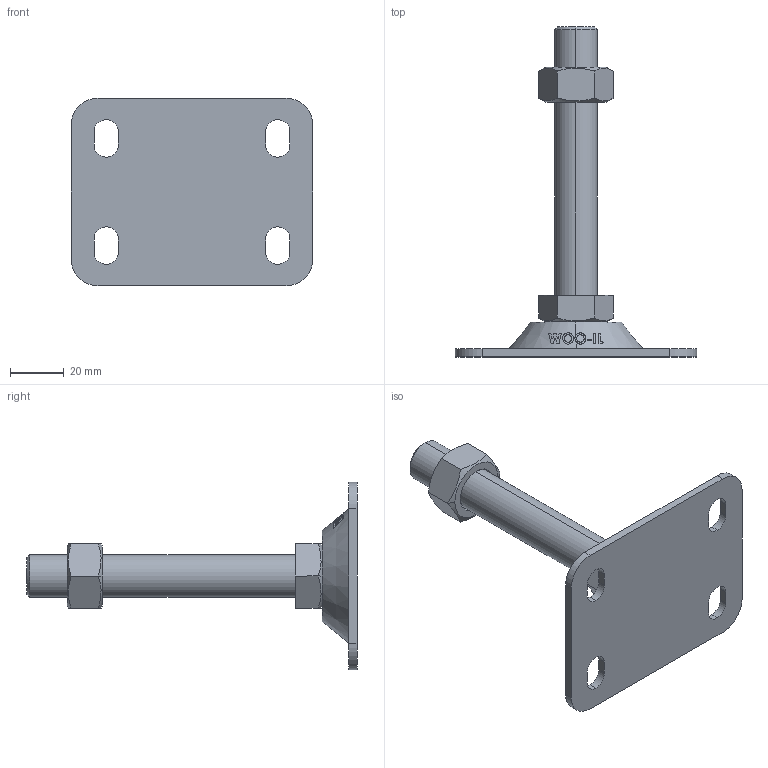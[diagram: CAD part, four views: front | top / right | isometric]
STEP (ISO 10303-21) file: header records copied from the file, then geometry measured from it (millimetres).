
FILE_DESCRIPTION (( 'STEP AP214' ), '1' );
FILE_NAME ('FABL7090-M16-100.step', '2021-03-28T23:51:30', ( '' ), ( '' ), 'SwSTEP 2.0', 'SolidWorks 2019', '' );
FILE_SCHEMA (( 'AUTOMOTIVE_DESIGN' ));
Length unit declared in the file: millimetre
Products named in the file (2): FABL7090-M16-100
Bounding box: 90 x 123 x 70 mm (x, y, z)
Volume: 60133.7 mm3; surface area: 21826.7 mm2
Topology: 2 solids, 2 shells, 146 faces, 384 edges, 252 vertices
Faces by surface type: plane 58, cylinder 48, cone 22, bspline 18
Entity records: 6084 total; most frequent: CARTESIAN_POINT 2656, ORIENTED_EDGE 768, DIRECTION 582, EDGE_CURVE 384, VERTEX_POINT 252, AXIS2_PLACEMENT_3D 210, EDGE_LOOP 166, LINE 162
